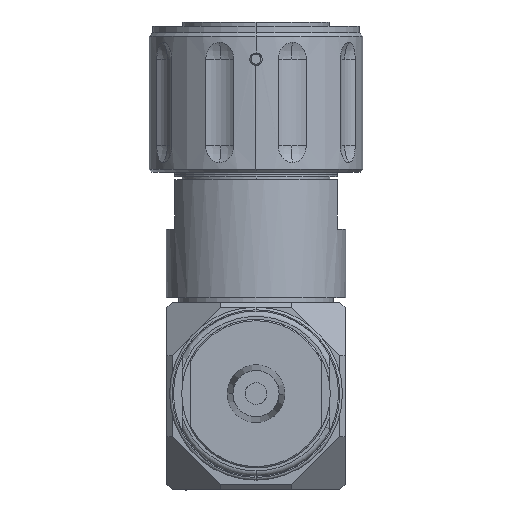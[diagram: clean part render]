
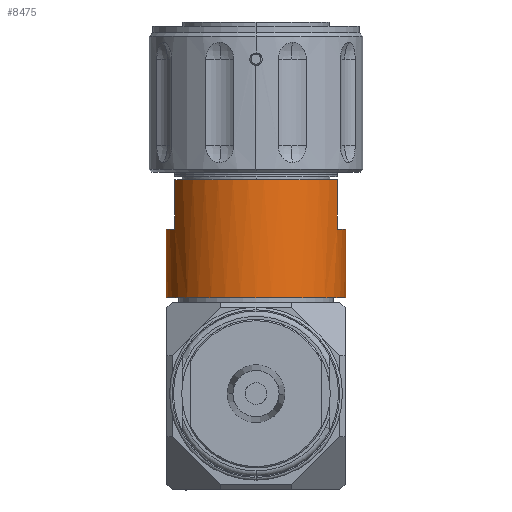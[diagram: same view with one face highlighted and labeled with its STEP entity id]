
A CAD part, front view. The second image highlights one B-rep face of the part: STEP entity #8475.
In plain terms, the highlighted cylindrical face has radius 17.272 mm (diameter 34.544 mm), a partial arc.
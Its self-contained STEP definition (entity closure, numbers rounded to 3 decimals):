
#213 = LINE ( 'NONE', #11131, #10943 ) ;
#410 = FACE_OUTER_BOUND ( 'NONE', #1069, .T. ) ;
#617 = CARTESIAN_POINT ( 'NONE',  ( 0., 0., -39.853 ) ) ;
#627 = DIRECTION ( 'NONE',  ( 0., 0., -1. ) ) ;
#724 = VERTEX_POINT ( 'NONE', #10247 ) ;
#784 = DIRECTION ( 'NONE',  ( 0., 0., -1. ) ) ;
#873 = DIRECTION ( 'NONE',  ( 1., 0., 0. ) ) ;
#1069 = EDGE_LOOP ( 'NONE', ( #11198, #9991, #9824, #2886, #4359, #7115, #5011, #12448 ) ) ;
#1263 = CYLINDRICAL_SURFACE ( 'NONE', #8683, 17.272 ) ;
#1391 = AXIS2_PLACEMENT_3D ( 'NONE', #9974, #4847, #873 ) ;
#1538 = CARTESIAN_POINT ( 'NONE',  ( 17.272, 0., -53.01 ) ) ;
#1579 = CARTESIAN_POINT ( 'NONE',  ( -15.621, -7.369, -30.328 ) ) ;
#1754 = DIRECTION ( 'NONE',  ( 1., 0., 0. ) ) ;
#1860 = EDGE_CURVE ( 'NONE', #11067, #3383, #6339, .T. ) ;
#1952 = CIRCLE ( 'NONE', #9272, 17.272 ) ;
#2546 = DIRECTION ( 'NONE',  ( 0., 0., -1. ) ) ;
#2642 = CIRCLE ( 'NONE', #1391, 17.272 ) ;
#2644 = VERTEX_POINT ( 'NONE', #8508 ) ;
#2650 = EDGE_CURVE ( 'NONE', #724, #6258, #4518, .T. ) ;
#2886 = ORIENTED_EDGE ( 'NONE', *, *, #3556, .F. ) ;
#3142 = DIRECTION ( 'NONE',  ( 0., 0., -1. ) ) ;
#3383 = VERTEX_POINT ( 'NONE', #3807 ) ;
#3468 = CIRCLE ( 'NONE', #5353, 17.272 ) ;
#3531 = EDGE_CURVE ( 'NONE', #724, #3554, #1952, .T. ) ;
#3554 = VERTEX_POINT ( 'NONE', #10935 ) ;
#3556 = EDGE_CURVE ( 'NONE', #9273, #11067, #213, .T. ) ;
#3616 = LINE ( 'NONE', #4666, #4051 ) ;
#3807 = CARTESIAN_POINT ( 'NONE',  ( -17.272, 0., -53.01 ) ) ;
#3933 = EDGE_CURVE ( 'NONE', #2644, #3554, #4448, .T. ) ;
#4039 = VECTOR ( 'NONE', #11523, 1000. ) ;
#4051 = VECTOR ( 'NONE', #627, 1000. ) ;
#4184 = DIRECTION ( 'NONE',  ( 1., 0., 0. ) ) ;
#4359 = ORIENTED_EDGE ( 'NONE', *, *, #12648, .F. ) ;
#4383 = CARTESIAN_POINT ( 'NONE',  ( 15.621, -7.369, -30.328 ) ) ;
#4448 = LINE ( 'NONE', #1579, #4039 ) ;
#4518 = LINE ( 'NONE', #4383, #9717 ) ;
#4651 = DIRECTION ( 'NONE',  ( 0., 0., 1. ) ) ;
#4666 = CARTESIAN_POINT ( 'NONE',  ( -17.272, 0., -30.328 ) ) ;
#4751 = CARTESIAN_POINT ( 'NONE',  ( 0., 0., -53.01 ) ) ;
#4847 = DIRECTION ( 'NONE',  ( 0., 0., 1. ) ) ;
#5011 = ORIENTED_EDGE ( 'NONE', *, *, #3531, .T. ) ;
#5353 = AXIS2_PLACEMENT_3D ( 'NONE', #617, #4651, #7528 ) ;
#6258 = VERTEX_POINT ( 'NONE', #6815 ) ;
#6288 = DIRECTION ( 'NONE',  ( 1., 0., 0. ) ) ;
#6339 = CIRCLE ( 'NONE', #11154, 17.272 ) ;
#6815 = CARTESIAN_POINT ( 'NONE',  ( 15.621, -7.369, -39.853 ) ) ;
#7115 = ORIENTED_EDGE ( 'NONE', *, *, #2650, .F. ) ;
#7528 = DIRECTION ( 'NONE',  ( 1., 0., 0. ) ) ;
#8038 = EDGE_CURVE ( 'NONE', #9325, #3383, #3616, .T. ) ;
#8183 = CARTESIAN_POINT ( 'NONE',  ( 0., 0., -30.328 ) ) ;
#8475 = ADVANCED_FACE ( 'NONE', ( #410 ), #1263, .T. ) ;
#8508 = CARTESIAN_POINT ( 'NONE',  ( -15.621, -7.369, -39.853 ) ) ;
#8683 = AXIS2_PLACEMENT_3D ( 'NONE', #8183, #10099, #6288 ) ;
#8973 = DIRECTION ( 'NONE',  ( 0., 0., -1. ) ) ;
#9272 = AXIS2_PLACEMENT_3D ( 'NONE', #12914, #8973, #4184 ) ;
#9273 = VERTEX_POINT ( 'NONE', #10023 ) ;
#9325 = VERTEX_POINT ( 'NONE', #10641 ) ;
#9717 = VECTOR ( 'NONE', #2546, 1000. ) ;
#9824 = ORIENTED_EDGE ( 'NONE', *, *, #1860, .F. ) ;
#9974 = CARTESIAN_POINT ( 'NONE',  ( 0., 0., -39.853 ) ) ;
#9991 = ORIENTED_EDGE ( 'NONE', *, *, #8038, .T. ) ;
#10023 = CARTESIAN_POINT ( 'NONE',  ( 17.272, 0., -39.853 ) ) ;
#10099 = DIRECTION ( 'NONE',  ( 0., 0., -1. ) ) ;
#10138 = EDGE_CURVE ( 'NONE', #9325, #2644, #3468, .T. ) ;
#10247 = CARTESIAN_POINT ( 'NONE',  ( 15.621, -7.369, -30.328 ) ) ;
#10641 = CARTESIAN_POINT ( 'NONE',  ( -17.272, 0., -39.853 ) ) ;
#10935 = CARTESIAN_POINT ( 'NONE',  ( -15.621, -7.369, -30.328 ) ) ;
#10943 = VECTOR ( 'NONE', #3142, 1000. ) ;
#11067 = VERTEX_POINT ( 'NONE', #1538 ) ;
#11131 = CARTESIAN_POINT ( 'NONE',  ( 17.272, 0., -30.328 ) ) ;
#11154 = AXIS2_PLACEMENT_3D ( 'NONE', #4751, #784, #1754 ) ;
#11198 = ORIENTED_EDGE ( 'NONE', *, *, #10138, .F. ) ;
#11523 = DIRECTION ( 'NONE',  ( 0., 0., 1. ) ) ;
#12448 = ORIENTED_EDGE ( 'NONE', *, *, #3933, .F. ) ;
#12648 = EDGE_CURVE ( 'NONE', #6258, #9273, #2642, .T. ) ;
#12914 = CARTESIAN_POINT ( 'NONE',  ( 0., 0., -30.328 ) ) ;
